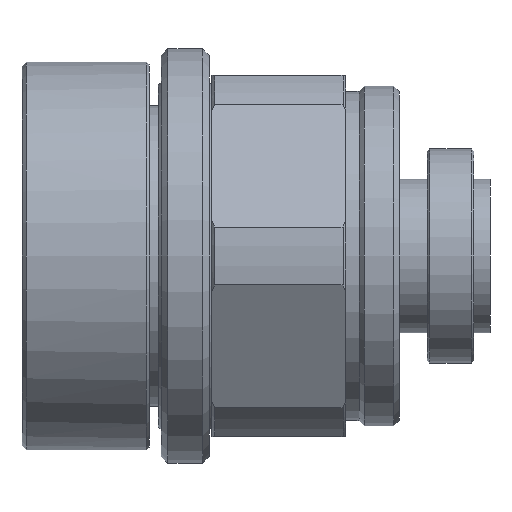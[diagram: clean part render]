
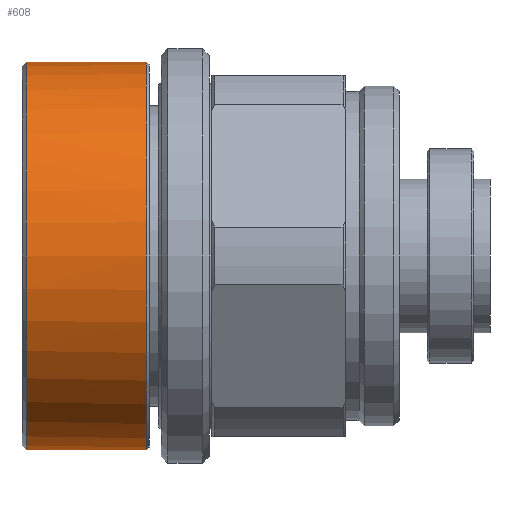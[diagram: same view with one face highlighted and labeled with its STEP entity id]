
A CAD part, front view. The second image highlights one B-rep face of the part: STEP entity #608.
In plain terms, the highlighted cylindrical face has radius 14.5 mm (diameter 29 mm), a partial arc.
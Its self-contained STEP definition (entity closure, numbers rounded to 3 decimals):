
#43 = CARTESIAN_POINT ( 'NONE',  ( -32.4, 0., 14.5 ) ) ;
#56 = VECTOR ( 'NONE', #1442, 1000. ) ;
#133 = EDGE_CURVE ( 'NONE', #1320, #1073, #2213, .T. ) ;
#168 = CARTESIAN_POINT ( 'NONE',  ( -41.4, -0.5, 14.491 ) ) ;
#186 = CARTESIAN_POINT ( 'NONE',  ( -40.7, -0.5, -14.491 ) ) ;
#205 = CARTESIAN_POINT ( 'NONE',  ( -41.4, -0.5, -14.491 ) ) ;
#224 = CIRCLE ( 'NONE', #1193, 14.5 ) ;
#306 = ORIENTED_EDGE ( 'NONE', *, *, #2403, .T. ) ;
#382 = VERTEX_POINT ( 'NONE', #186 ) ;
#507 = ORIENTED_EDGE ( 'NONE', *, *, #3076, .T. ) ;
#578 = EDGE_CURVE ( 'NONE', #3621, #1462, #985, .T. ) ;
#608 = ADVANCED_FACE ( 'NONE', ( #3073 ), #809, .T. ) ;
#658 = DIRECTION ( 'NONE',  ( -1., 0., 0. ) ) ;
#682 = DIRECTION ( 'NONE',  ( -1., 0., 0. ) ) ;
#715 = ORIENTED_EDGE ( 'NONE', *, *, #3512, .F. ) ;
#809 = CYLINDRICAL_SURFACE ( 'NONE', #2473, 14.5 ) ;
#893 = CARTESIAN_POINT ( 'NONE',  ( -47.402, -0.5, 14.491 ) ) ;
#953 = CARTESIAN_POINT ( 'NONE',  ( -47.402, 0., -14.5 ) ) ;
#985 = CIRCLE ( 'NONE', #1693, 14.5 ) ;
#1007 = ORIENTED_EDGE ( 'NONE', *, *, #578, .F. ) ;
#1032 = DIRECTION ( 'NONE',  ( -1., 0., 0. ) ) ;
#1073 = VERTEX_POINT ( 'NONE', #1948 ) ;
#1193 = AXIS2_PLACEMENT_3D ( 'NONE', #1367, #3383, #1661 ) ;
#1320 = VERTEX_POINT ( 'NONE', #1531 ) ;
#1329 = ORIENTED_EDGE ( 'NONE', *, *, #2948, .F. ) ;
#1331 = EDGE_LOOP ( 'NONE', ( #3325, #306, #507, #1007, #3079, #715, #1329, #2089 ) ) ;
#1360 = VECTOR ( 'NONE', #682, 1000. ) ;
#1362 = DIRECTION ( 'NONE',  ( 0., 0., 1. ) ) ;
#1367 = CARTESIAN_POINT ( 'NONE',  ( -41.4, 0., 0. ) ) ;
#1376 = VERTEX_POINT ( 'NONE', #168 ) ;
#1387 = DIRECTION ( 'NONE',  ( -1., 0., 0. ) ) ;
#1442 = DIRECTION ( 'NONE',  ( 1., 0., 0. ) ) ;
#1462 = VERTEX_POINT ( 'NONE', #2601 ) ;
#1531 = CARTESIAN_POINT ( 'NONE',  ( -32.4, 0., -14.5 ) ) ;
#1539 = AXIS2_PLACEMENT_3D ( 'NONE', #3113, #1387, #3406 ) ;
#1624 = DIRECTION ( 'NONE',  ( -1., 0., 0. ) ) ;
#1648 = DIRECTION ( 'NONE',  ( -1., 0., 0. ) ) ;
#1661 = DIRECTION ( 'NONE',  ( 0., 0., 1. ) ) ;
#1693 = AXIS2_PLACEMENT_3D ( 'NONE', #3665, #1648, #3370 ) ;
#1810 = VECTOR ( 'NONE', #1032, 1000. ) ;
#1904 = VECTOR ( 'NONE', #658, 1000. ) ;
#1948 = CARTESIAN_POINT ( 'NONE',  ( -40.7, 0., -14.5 ) ) ;
#2089 = ORIENTED_EDGE ( 'NONE', *, *, #2525, .F. ) ;
#2213 = LINE ( 'NONE', #953, #1360 ) ;
#2310 = LINE ( 'NONE', #893, #56 ) ;
#2361 = AXIS2_PLACEMENT_3D ( 'NONE', #3349, #1624, #3640 ) ;
#2403 = EDGE_CURVE ( 'NONE', #1320, #2622, #2462, .T. ) ;
#2462 = CIRCLE ( 'NONE', #2361, 14.5 ) ;
#2473 = AXIS2_PLACEMENT_3D ( 'NONE', #2778, #2790, #1362 ) ;
#2525 = EDGE_CURVE ( 'NONE', #1073, #382, #3645, .T. ) ;
#2601 = CARTESIAN_POINT ( 'NONE',  ( -40.7, 0., 14.5 ) ) ;
#2622 = VERTEX_POINT ( 'NONE', #43 ) ;
#2723 = CARTESIAN_POINT ( 'NONE',  ( -47.402, 0., 14.5 ) ) ;
#2743 = LINE ( 'NONE', #3205, #1904 ) ;
#2778 = CARTESIAN_POINT ( 'NONE',  ( -47.402, 0., 0. ) ) ;
#2790 = DIRECTION ( 'NONE',  ( -1., 0., 0. ) ) ;
#2842 = CARTESIAN_POINT ( 'NONE',  ( -40.7, -0.5, 14.491 ) ) ;
#2948 = EDGE_CURVE ( 'NONE', #382, #3133, #2743, .T. ) ;
#2976 = LINE ( 'NONE', #2723, #1810 ) ;
#3073 = FACE_OUTER_BOUND ( 'NONE', #1331, .T. ) ;
#3076 = EDGE_CURVE ( 'NONE', #2622, #1462, #2976, .T. ) ;
#3079 = ORIENTED_EDGE ( 'NONE', *, *, #3655, .F. ) ;
#3113 = CARTESIAN_POINT ( 'NONE',  ( -40.7, 0., 0. ) ) ;
#3133 = VERTEX_POINT ( 'NONE', #205 ) ;
#3205 = CARTESIAN_POINT ( 'NONE',  ( -47.402, -0.5, -14.491 ) ) ;
#3325 = ORIENTED_EDGE ( 'NONE', *, *, #133, .F. ) ;
#3349 = CARTESIAN_POINT ( 'NONE',  ( -32.4, 0., 0. ) ) ;
#3370 = DIRECTION ( 'NONE',  ( 0., 0., 1. ) ) ;
#3383 = DIRECTION ( 'NONE',  ( -1., 0., 0. ) ) ;
#3406 = DIRECTION ( 'NONE',  ( 0., 0., 1. ) ) ;
#3512 = EDGE_CURVE ( 'NONE', #3133, #1376, #224, .T. ) ;
#3621 = VERTEX_POINT ( 'NONE', #2842 ) ;
#3640 = DIRECTION ( 'NONE',  ( 0., 0., 1. ) ) ;
#3645 = CIRCLE ( 'NONE', #1539, 14.5 ) ;
#3655 = EDGE_CURVE ( 'NONE', #1376, #3621, #2310, .T. ) ;
#3665 = CARTESIAN_POINT ( 'NONE',  ( -40.7, 0., 0. ) ) ;
